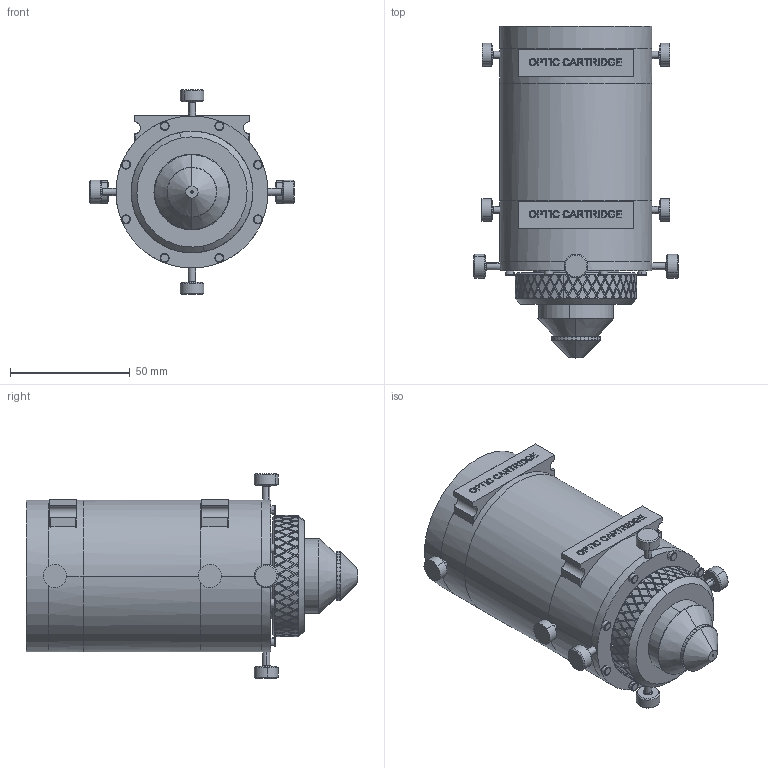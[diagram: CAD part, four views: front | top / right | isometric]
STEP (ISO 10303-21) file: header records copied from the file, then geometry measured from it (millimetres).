
FILE_DESCRIPTION (( 'STEP AP214' ), '1' );
FILE_NAME ('G2-38-38-064-127.STEP', '2017-01-04T20:38:05', ( '' ), ( '' ), 'SwSTEP 2.0', 'SolidWorks 2017', '' );
FILE_SCHEMA (( 'AUTOMOTIVE_DESIGN' ));
Length unit declared in the file: inch
Products named in the file (1): G2-38-38-064-127
Bounding box: 85.56 x 138.66 x 85.56 mm (x, y, z)
Volume: 353817 mm3; surface area: 50975.9 mm2
Topology: 1 solids, 1 shells, 1799 faces, 4636 edges, 2908 vertices
Faces by surface type: plane 1259, cylinder 350, bspline 130, torus 32, cone 28
Entity records: 62362 total; most frequent: CARTESIAN_POINT 22314, ORIENTED_EDGE 9272, DIRECTION 7032, EDGE_CURVE 4636, VERTEX_POINT 2908, VECTOR 2564, LINE 2564, AXIS2_PLACEMENT_3D 2234
